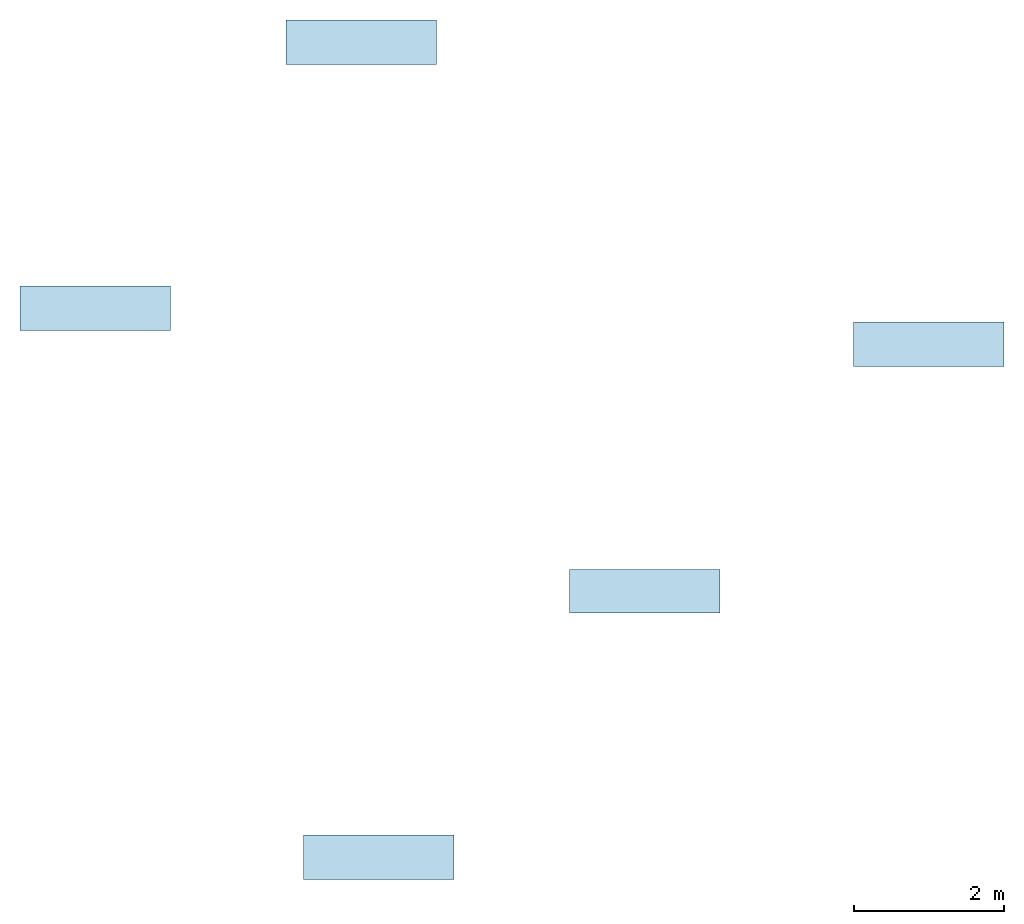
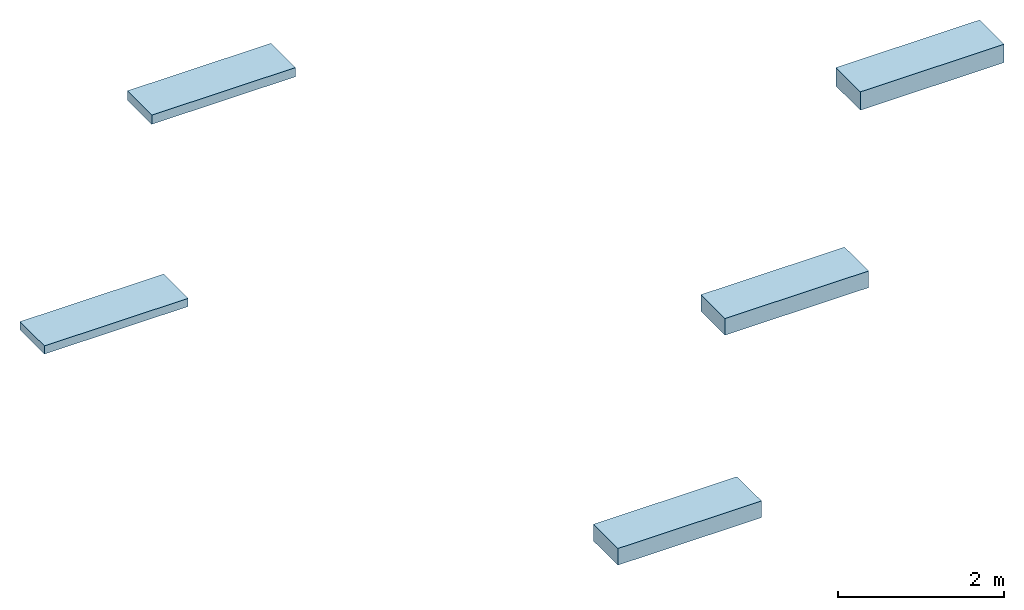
# One storey: 5 slabs, 5 elements without a shape of their own.
"""IFC2X3 building model written with IfcOpenShell, lengths in millimetres."""

import ifcopenshell
import ifcopenshell.guid

model = None  # the IFC model being written
_history = None  # IfcOwnerHistory: only IFC2X3 demands one
_inside = {}  # id of a spatial element -> (the spatial element, [elements in it])
_under = {}  # id of a project, library or spatial element -> (it, [spatial elements below it])
_declared = {}  # id of a project -> (the project, [libraries it declares])
_typed = {}  # id of a type object -> (the type object, [elements of that type])
_made_of = {}  # id of a material, layer set ... -> (it, [elements and type objects made of it])


def new_model(schema):
    """Start an empty IFC model of exactly this schema.

    Asked for "IFC4X3", IfcOpenShell would pick the latest addendum, in which some entities
    have other attributes; the version numbers below select the first issue.
    IFC2X3 requires an IfcOwnerHistory on every rooted entity: one is made here for all.
    """
    global model, _history
    if schema == "IFC4X3":
        model = ifcopenshell.file(schema_version=(4, 3, 0, 0))
    else:
        model = ifcopenshell.file(schema=schema)
    _inside.clear()
    _under.clear()
    _declared.clear()
    _typed.clear()
    _made_of.clear()
    _history = None
    if model.schema == "IFC2X3":
        org = make("IfcOrganization", Name="unknown")
        user = make(
            "IfcPersonAndOrganization",
            ThePerson=make("IfcPerson", FamilyName="unknown"),
            TheOrganization=org,
        )
        app = make(
            "IfcApplication",
            ApplicationDeveloper=org,
            Version="unknown",
            ApplicationFullName="unknown",
            ApplicationIdentifier="unknown",
        )
        _history = make(
            "IfcOwnerHistory",
            OwningUser=user,
            OwningApplication=app,
            ChangeAction="ADDED",
            CreationDate=0,
        )
    return model


def make(cls, **values):
    """One entity of the class cls with the attributes given. An attribute that is None is left unset."""
    return model.create_entity(
        cls, **{name: value for name, value in values.items() if value is not None}
    )


def entity(cls, *values):
    """Any entity or typed value of the class cls, its attributes in the order of the schema. None: left unset."""
    e = model.create_entity(cls)
    for i, value in enumerate(values):
        if value is not None:
            e[i] = value
    return e


def rooted(cls, **values):
    """An entity with a GlobalId (a new one), such as an element, a storey or a relation."""
    return make(cls, GlobalId=ifcopenshell.guid.new(), OwnerHistory=_history, **values)


def si_unit(unit_type, name, prefix=None):
    """IfcSIUnit, for example si_unit("LENGTHUNIT", "METRE", prefix="MILLI")."""
    return make("IfcSIUnit", UnitType=unit_type, Prefix=prefix, Name=name)


def converted_unit(unit_type, name, factor, base, dimensions=None, offset=None):
    """IfcConversionBasedUnit, such as the inch: factor (a typed value) times the base unit."""
    return make(
        "IfcConversionBasedUnit"
        if offset is None
        else "IfcConversionBasedUnitWithOffset",
        ConversionOffset=offset,
        Dimensions=None
        if dimensions is None
        else entity("IfcDimensionalExponents", *dimensions),
        UnitType=unit_type,
        Name=name,
        ConversionFactor=make(
            "IfcMeasureWithUnit", ValueComponent=factor, UnitComponent=base
        ),
    )


def derived_unit(unit_type, elements):
    """IfcDerivedUnit: a product of units, each with its exponent."""
    return make(
        "IfcDerivedUnit",
        Elements=[
            make("IfcDerivedUnitElement", Unit=unit, Exponent=power)
            for unit, power in elements
        ],
        UnitType=unit_type,
    )


def assignment(units):
    """IfcUnitAssignment: the units of a project."""
    return None if units is None else make("IfcUnitAssignment", Units=units)


def point(xyz):
    """IfcCartesianPoint."""
    return None if xyz is None else make("IfcCartesianPoint", Coordinates=xyz)


def direction(xyz):
    """IfcDirection."""
    return None if xyz is None else make("IfcDirection", DirectionRatios=xyz)


def frame(location, z_axis=None, x_axis=None):
    """IfcAxis2Placement3D, a coordinate frame: its origin and axes. An axis left out is left unset."""
    return make(
        "IfcAxis2Placement3D",
        Location=point(location),
        Axis=direction(z_axis),
        RefDirection=direction(x_axis),
    )


def frame_2d(location, x_axis=None):
    """IfcAxis2Placement2D, a coordinate frame in the plane: its origin and x axis."""
    return make(
        "IfcAxis2Placement2D", Location=point(location), RefDirection=direction(x_axis)
    )


def origin():
    """The frame at (0, 0, 0) with its axes left unset."""
    return frame((0.0, 0.0, 0.0))


def origin_2d_with_axis():
    """The frame at (0, 0) in the plane with the x axis (1, 0) written out."""
    return frame_2d((0.0, 0.0), x_axis=(1.0, 0.0))


def place(relative_to, where):
    """IfcLocalPlacement: puts the frame where relative to a parent placement (None: the world)."""
    return make(
        "IfcLocalPlacement", PlacementRelTo=relative_to, RelativePlacement=where
    )


def context(
    kind, dimensions, precision=None, world=None, true_north=None, identifier=None
):
    """IfcGeometricRepresentationContext, for example the 3D "Model" context."""
    return make(
        "IfcGeometricRepresentationContext",
        ContextIdentifier=identifier,
        ContextType=kind,
        CoordinateSpaceDimension=dimensions,
        Precision=precision,
        WorldCoordinateSystem=world,
        TrueNorth=true_north,
    )


def subcontext(parent, identifier, kind, view, scale=None):
    """IfcGeometricRepresentationSubContext, for example "Body" below "Model"."""
    return make(
        "IfcGeometricRepresentationSubContext",
        ContextIdentifier=identifier,
        ContextType=kind,
        ParentContext=parent,
        TargetScale=scale,
        TargetView=view,
    )


def project(units=None, contexts=None):
    """IfcProject with its units and contexts."""
    return rooted(
        "IfcProject",
        Name="project",
        RepresentationContexts=contexts,
        UnitsInContext=assignment(units),
    )


def spatial(cls, under=None, at=None, **own):
    """A site, building, storey or space (cls), placed at a placement, below another one or the project."""
    s = rooted(cls, ObjectPlacement=at, **own)
    if under is not None:
        _under.setdefault(under.id(), (under, []))[1].append(s)
    return s


def profile(cls, at=None, kind="AREA", **sizes):
    """A parametric profile (cls). Its sizes go by their IFC names, for example OverallWidth=200.0."""
    return make(cls, ProfileType=kind, Position=at, **sizes)


def rectangle(**sizes):
    """IfcRectangleProfileDef."""
    return profile("IfcRectangleProfileDef", **sizes)


def extrude(swept, where, along, depth):
    """IfcExtrudedAreaSolid: the profile swept, set in the frame where, extruded along a direction by depth."""
    return make(
        "IfcExtrudedAreaSolid",
        SweptArea=swept,
        Position=where,
        ExtrudedDirection=direction(along),
        Depth=depth,
    )


def shape(context_of_items, identifier, shape_type, items):
    """IfcShapeRepresentation: the items that make up one representation, for example the "Body"."""
    return make(
        "IfcShapeRepresentation",
        ContextOfItems=context_of_items,
        RepresentationIdentifier=identifier,
        RepresentationType=shape_type,
        Items=items,
    )


def made_of(thing, what):
    """Note that an element or type object is made of a material, layer set ...; save() writes the relation."""
    if what is not None:
        _made_of.setdefault(what.id(), (what, []))[1].append(thing)
    return thing


def type_object(cls, material=None, **own):
    """A type object (cls), such as IfcWallType, which elements share."""
    return made_of(rooted(cls, **own), material)


def element(
    cls,
    number,
    at=None,
    inside=None,
    cuts=None,
    type_object=None,
    material=None,
    context=None,
    identifier="Body",
    shape_type=None,
    held_by="IfcProductDefinitionShape",
    body=None,
    shapes=None,
    **own,
):
    """One element of the class cls, such as IfcWall. Its Tag is "e" and its number.

    at: its placement. inside: the storey or other place that contains it. cuts: it is an
    opening in that element (IfcRelVoidsElement). A single representation is given by context,
    identifier, shape_type and body (its items); several are given by shapes. held_by: the class
    of the entity that holds the representations. save() writes the other relations.
    """
    e = rooted(cls, Tag="e%d" % number, ObjectPlacement=at, **own)
    if body is not None:
        shapes = [shape(context, identifier, shape_type, body)]
    if shapes is not None:
        e.Representation = make(held_by, Representations=shapes)
    if inside is not None:
        _inside.setdefault(inside.id(), (inside, []))[1].append(e)
    if cuts is not None:
        rooted(
            "IfcRelVoidsElement", RelatingBuildingElement=cuts, RelatedOpeningElement=e
        )
    if type_object is not None:
        _typed.setdefault(type_object.id(), (type_object, []))[1].append(e)
    return made_of(e, material)


def aggregate(whole, parts):
    """IfcRelAggregates: a whole, such as a stair, and the parts it consists of."""
    return rooted("IfcRelAggregates", RelatingObject=whole, RelatedObjects=parts)


def save(model, path):
    """Write the relations noted so far, then the file.

    IfcRelAggregates (storeys below a building ...), IfcRelContainedInSpatialStructure (elements
    in a storey), IfcRelDefinesByType, IfcRelAssociatesMaterial and IfcRelDeclares: one each for
    every whole, place, type object, material and project.
    """
    for whole, parts in _under.values():
        aggregate(whole, parts)
    for where, things in _inside.values():
        rooted(
            "IfcRelContainedInSpatialStructure",
            RelatedElements=things,
            RelatingStructure=where,
        )
    for kind, things in _typed.values():
        rooted("IfcRelDefinesByType", RelatedObjects=things, RelatingType=kind)
    for what, things in _made_of.values():
        rooted("IfcRelAssociatesMaterial", RelatedObjects=things, RelatingMaterial=what)
    for by, libraries in _declared.values():
        rooted("IfcRelDeclares", RelatingContext=by, RelatedDefinitions=libraries)
    model.write(path)


model = new_model("IFC2X3")

# Units and contexts
model_context = context("Model", 3, precision=0.01, world=origin(), true_north=direction((6.12303176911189e-17, 1.0)))
context_of_model = context(None, 3, precision=0.01, world=origin(), true_north=direction((6.12303176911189e-17, 1.0)))
body_context = subcontext(model_context, "Body", "Model", "MODEL_VIEW")
ifc_project = project(units=[si_unit("LENGTHUNIT", "METRE", prefix="MILLI"), si_unit("AREAUNIT", "SQUARE_METRE"), si_unit("VOLUMEUNIT", "CUBIC_METRE"), converted_unit("PLANEANGLEUNIT", "DEGREE", entity("IfcRatioMeasure", 0.0174532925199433), si_unit("PLANEANGLEUNIT", "RADIAN"), dimensions=[0, 0, 0, 0, 0, 0, 0]), si_unit("MASSUNIT", "GRAM", prefix="KILO"), derived_unit("MASSDENSITYUNIT", [(si_unit("MASSUNIT", "GRAM", prefix="KILO"), 1), (si_unit("LENGTHUNIT", "METRE"), -3)]), derived_unit("MOMENTOFINERTIAUNIT", [(si_unit("LENGTHUNIT", "METRE"), 4)]), si_unit("TIMEUNIT", "SECOND"), si_unit("FREQUENCYUNIT", "HERTZ"), si_unit("THERMODYNAMICTEMPERATUREUNIT", "DEGREE_CELSIUS"), derived_unit("THERMALTRANSMITTANCEUNIT", [(si_unit("MASSUNIT", "GRAM", prefix="KILO"), 1), (si_unit("THERMODYNAMICTEMPERATUREUNIT", "KELVIN"), -1), (si_unit("TIMEUNIT", "SECOND"), -3)]), derived_unit("VOLUMETRICFLOWRATEUNIT", [(si_unit("LENGTHUNIT", "METRE"), 3), (si_unit("TIMEUNIT", "SECOND"), -1)]), si_unit("ELECTRICCURRENTUNIT", "AMPERE"), si_unit("ELECTRICVOLTAGEUNIT", "VOLT"), si_unit("POWERUNIT", "WATT"), si_unit("FORCEUNIT", "NEWTON", prefix="KILO"), si_unit("ILLUMINANCEUNIT", "LUX"), si_unit("LUMINOUSFLUXUNIT", "LUMEN"), si_unit("LUMINOUSINTENSITYUNIT", "CANDELA"), derived_unit("USERDEFINED", [(si_unit("MASSUNIT", "GRAM", prefix="KILO"), -1), (si_unit("LENGTHUNIT", "METRE"), -2), (si_unit("TIMEUNIT", "SECOND"), 3), (si_unit("LUMINOUSFLUXUNIT", "LUMEN"), 1)]), derived_unit("LINEARVELOCITYUNIT", [(si_unit("LENGTHUNIT", "METRE"), 1), (si_unit("TIMEUNIT", "SECOND"), -1)]), si_unit("PRESSUREUNIT", "PASCAL"), derived_unit("USERDEFINED", [(si_unit("LENGTHUNIT", "METRE"), -2), (si_unit("MASSUNIT", "GRAM", prefix="KILO"), 1), (si_unit("TIMEUNIT", "SECOND"), -2)]), derived_unit("LINEARFORCEUNIT", [(si_unit("MASSUNIT", "GRAM", prefix="KILO"), 1), (si_unit("LENGTHUNIT", "METRE"), 1), (si_unit("TIMEUNIT", "SECOND"), -2), (si_unit("LENGTHUNIT", "METRE"), -1)]), derived_unit("PLANARFORCEUNIT", [(si_unit("MASSUNIT", "GRAM", prefix="KILO"), 1), (si_unit("LENGTHUNIT", "METRE"), 1), (si_unit("TIMEUNIT", "SECOND"), -2), (si_unit("LENGTHUNIT", "METRE"), -2)])], contexts=[model_context, context_of_model])

# Site, building, storey
site_placement = place(None, origin())
site = spatial("IfcSite", under=ifc_project, at=site_placement, Name="Default", CompositionType="ELEMENT")
building_placement = place(site_placement, origin())
building = spatial("IfcBuilding", under=site, at=building_placement, CompositionType="ELEMENT")
storey_placement = place(building_placement, frame((0.0, 0.0, 2000.0)))
storey = spatial("IfcBuildingStorey", under=building, at=storey_placement, Name="Lengte", CompositionType="ELEMENT", Elevation=2000.0)

# Roof, slab
roof_1_placement = place(storey_placement, frame((-478.158625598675, 2412.39833712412, 0.0)))
roof_1 = element("IfcRoof", 1, at=roof_1_placement, inside=storey, Name="Basic Roof:NLRS_27_RO_Naturoll 033_120x590x3300mm:5172", ObjectType="Basic Roof:NLRS_27_RO_Naturoll 033_120x590x3300mm", ShapeType="NOTDEFINED")
slab_type_1 = type_object("IfcSlabType", Name="Basic Roof:NLRS_27_RO_Naturoll 033_120x590x3300mm", PredefinedType="ROOF")
slab_1_placement = place(roof_1_placement, origin())
slab_1 = element("IfcSlab", 2, at=slab_1_placement, type_object=slab_type_1, Name="Basic Roof:NLRS_27_RO_Naturoll 033_120x590x3300mm:5172", ObjectType="Basic Roof:NLRS_27_RO_Naturoll 033_120x590x3300mm", PredefinedType="NOTDEFINED", context=body_context, shape_type="SweptSolid", body=[
    extrude(rectangle(XDim=2000.0, YDim=590.0, at=origin_2d_with_axis()), frame((1000.0, 295.0, 0.0)), (0.0, 0.0, 1.0), 120.0),
])
aggregate(roof_1, [slab_1])

roof_2_placement = place(storey_placement, frame((3057.37528033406, 5947.93224305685, 0.0)))
roof_2 = element("IfcRoof", 3, at=roof_2_placement, inside=storey, Name="Basic Roof:NLRS_27_RO_Naturoll 033_135x590x3900mm:5274", ObjectType="Basic Roof:NLRS_27_RO_Naturoll 033_135x590x3900mm", ShapeType="NOTDEFINED")
slab_type_2 = type_object("IfcSlabType", Name="Basic Roof:NLRS_27_RO_Naturoll 033_135x590x3900mm", PredefinedType="ROOF")
slab_2_placement = place(roof_2_placement, origin())
slab_2 = element("IfcSlab", 4, at=slab_2_placement, type_object=slab_type_2, Name="Basic Roof:NLRS_27_RO_Naturoll 033_135x590x3900mm:5274", ObjectType="Basic Roof:NLRS_27_RO_Naturoll 033_135x590x3900mm", PredefinedType="NOTDEFINED", context=body_context, shape_type="SweptSolid", body=[
    extrude(rectangle(XDim=2000.0, YDim=590.0, at=origin_2d_with_axis()), frame((1000.0, 295.0, 0.0)), (0.0, 0.0, 1.0), 135.0),
])
aggregate(roof_2, [slab_2])

roof_3_placement = place(storey_placement, frame((3289.6940687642, -4886.6807597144, 0.0)))
roof_3 = element("IfcRoof", 5, at=roof_3_placement, inside=storey, Name="Basic Roof:NLRS_27_RO_Naturoll 033_240x590x2000mm", ObjectType="Basic Roof:NLRS_27_RO_Naturoll 033_240x590x2000mm", ShapeType="NOTDEFINED")
slab_type_3 = type_object("IfcSlabType", Name="Basic Roof:NLRS_27_RO_Naturoll 033_240x590x2000mm", PredefinedType="ROOF")
slab_3_placement = place(roof_3_placement, origin())
slab_3 = element("IfcSlab", 6, at=slab_3_placement, type_object=slab_type_3, Name="Basic Roof:NLRS_27_RO_Naturoll 033_240x590x2000mm", ObjectType="Basic Roof:NLRS_27_RO_Naturoll 033_240x590x2000mm", PredefinedType="NOTDEFINED", context=body_context, shape_type="SweptSolid", body=[
    extrude(rectangle(XDim=2000.0, YDim=590.0, at=frame_2d((0.0, -2.55795384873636e-13), x_axis=(1.0, 0.0))), frame((1000.0, 295.0, 0.0)), (0.0, 0.0, 1.0), 245.0),
])
aggregate(roof_3, [slab_3])

roof_4_placement = place(storey_placement, frame((6825.22797469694, -1346.14685378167, 0.0)))
roof_4 = element("IfcRoof", 7, at=roof_4_placement, inside=storey, Name="Basic Roof:NLRS_27_RO_Naturoll 033_245x580x2000mm", ObjectType="Basic Roof:NLRS_27_RO_Naturoll 033_245x580x2000mm", ShapeType="NOTDEFINED")
slab_type_4 = type_object("IfcSlabType", Name="Basic Roof:NLRS_27_RO_Naturoll 033_245x580x2000mm", PredefinedType="ROOF")
slab_4_placement = place(roof_4_placement, origin())
slab_4 = element("IfcSlab", 8, at=slab_4_placement, type_object=slab_type_4, Name="Basic Roof:NLRS_27_RO_Naturoll 033_245x580x2000mm", ObjectType="Basic Roof:NLRS_27_RO_Naturoll 033_245x580x2000mm", PredefinedType="NOTDEFINED", context=body_context, shape_type="SweptSolid", body=[
    extrude(rectangle(XDim=2000.0, YDim=580.0, at=frame_2d((0.0, 1.4210854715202e-13), x_axis=(1.0, 0.0))), frame((1000.0, 290.0, 0.0)), (0.0, 0.0, 1.0), 245.0),
])
aggregate(roof_4, [slab_4])

roof_5_placement = place(storey_placement, frame((10603.2310849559, 1933.30284091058, 0.0)))
roof_5 = element("IfcRoof", 9, at=roof_5_placement, inside=storey, Name="Basic Roof:NLRS_27_RO_Naturoll 033_270x590x2500mm", ObjectType="Basic Roof:NLRS_27_RO_Naturoll 033_270x590x2500mm", ShapeType="NOTDEFINED")
slab_type_5 = type_object("IfcSlabType", Name="Basic Roof:NLRS_27_RO_Naturoll 033_270x590x2500mm", PredefinedType="ROOF")
slab_5_placement = place(roof_5_placement, origin())
slab_5 = element("IfcSlab", 10, at=slab_5_placement, type_object=slab_type_5, Name="Basic Roof:NLRS_27_RO_Naturoll 033_270x590x2500mm", ObjectType="Basic Roof:NLRS_27_RO_Naturoll 033_270x590x2500mm", PredefinedType="NOTDEFINED", context=body_context, shape_type="SweptSolid", body=[
    extrude(rectangle(XDim=2000.0, YDim=590.0, at=origin_2d_with_axis()), frame((1000.0, 295.0, 0.0)), (0.0, 0.0, 1.0), 270.0),
])
aggregate(roof_5, [slab_5])

save(model, "model.ifc")
